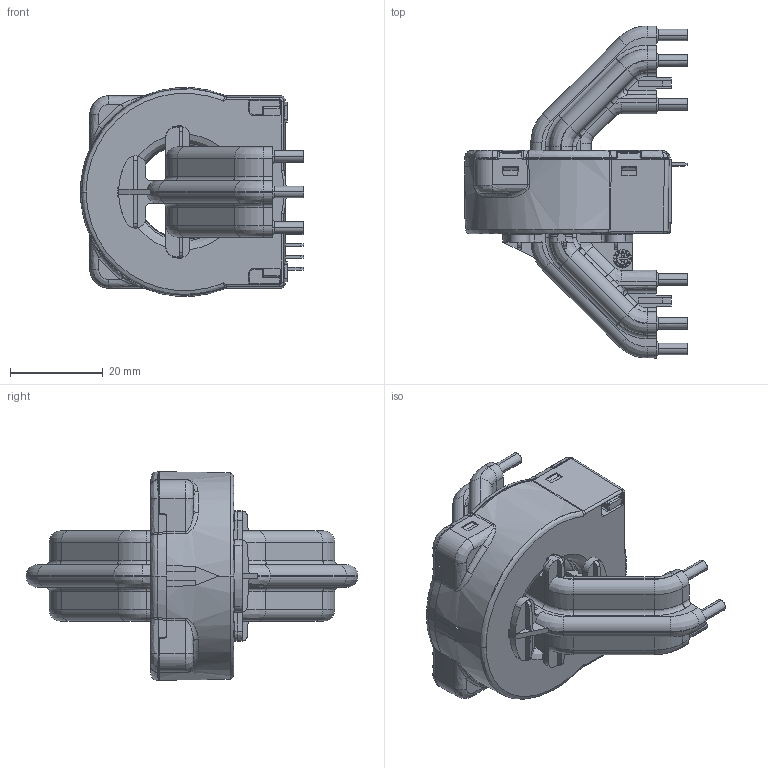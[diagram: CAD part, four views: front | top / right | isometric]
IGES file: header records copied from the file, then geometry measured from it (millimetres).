
Start section: Elysium IGES Interface
Global section: file name: C:\Users\bem\Desktop\Black_box_CTSR_0.3_TP_SP4.igs; native system: Creo Elements/Direct Modeling 17.0C  05-Feb-2011; preprocessor: Creo Element/Direct IGES_3D V2.2; author: Unknown; organization: Unknown; date: 20110728.130851; units: millimetre
Bounding box: 48.06 x 71.41 x 44.87 mm (x, y, z)
Volume: 35425.2 mm3; surface area: 13230.6 mm2
Topology: 1 solids, 2 shells, 1630 faces, 4447 edges, 2863 vertices
Faces by surface type: bspline 1630
